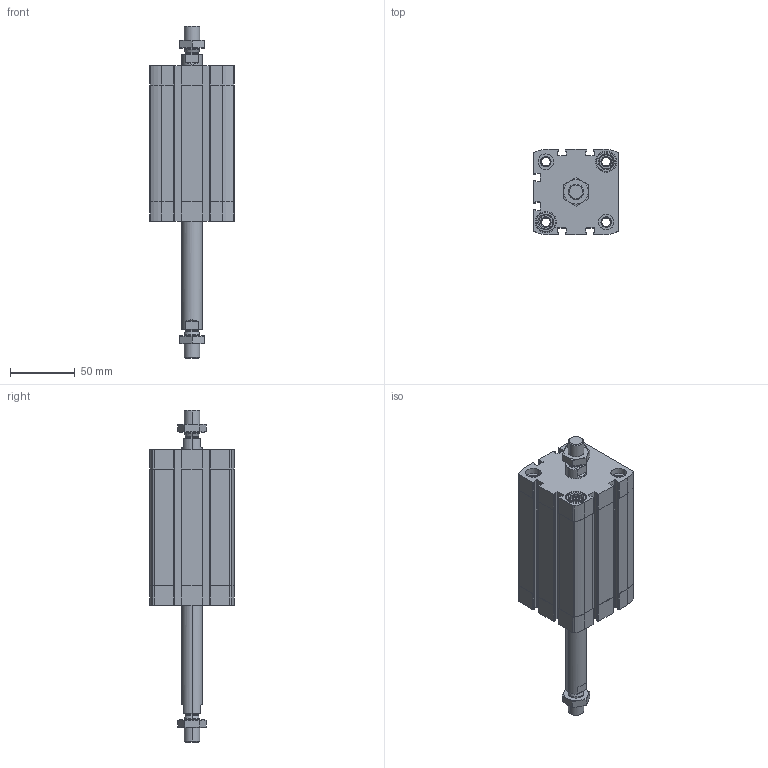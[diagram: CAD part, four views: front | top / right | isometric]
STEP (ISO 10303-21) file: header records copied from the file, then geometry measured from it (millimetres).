
FILE_DESCRIPTION (( 'STEP AP203' ), '1' );
FILE_NAME ('CCN50-75-P.STEP', '2020-06-22T18:58:38', ( '' ), ( '' ), 'SwSTEP 2.0', 'SolidWorks 2019', '' );
FILE_SCHEMA (( 'CONFIG_CONTROL_DESIGN' ));
Length unit declared in the file: millimetre
Products named in the file (1): CCN50-75-P
Bounding box: 65.5 x 65.5 x 256 mm (x, y, z)
Volume: 353643 mm3; surface area: 99141.1 mm2
Topology: 4 solids, 4 shells, 528 faces, 1392 edges, 904 vertices
Faces by surface type: plane 240, cylinder 220, cone 60, torus 8
Entity records: 17219 total; most frequent: CARTESIAN_POINT 3821, DIRECTION 2842, ORIENTED_EDGE 2784, EDGE_CURVE 1392, AXIS2_PLACEMENT_3D 1045, VERTEX_POINT 904, VECTOR 752, LINE 752
